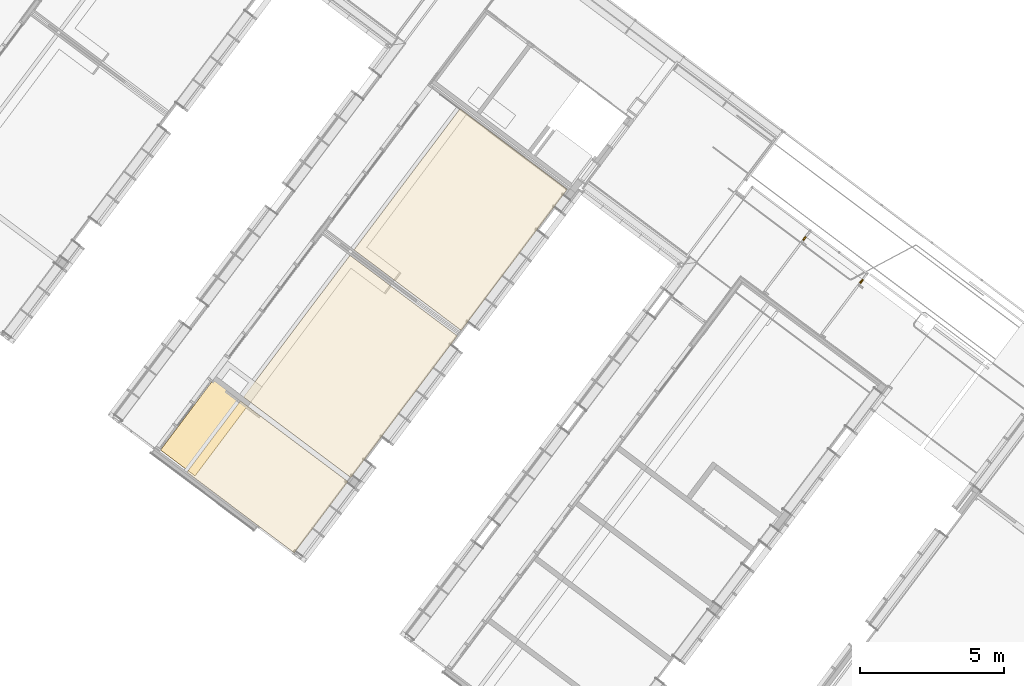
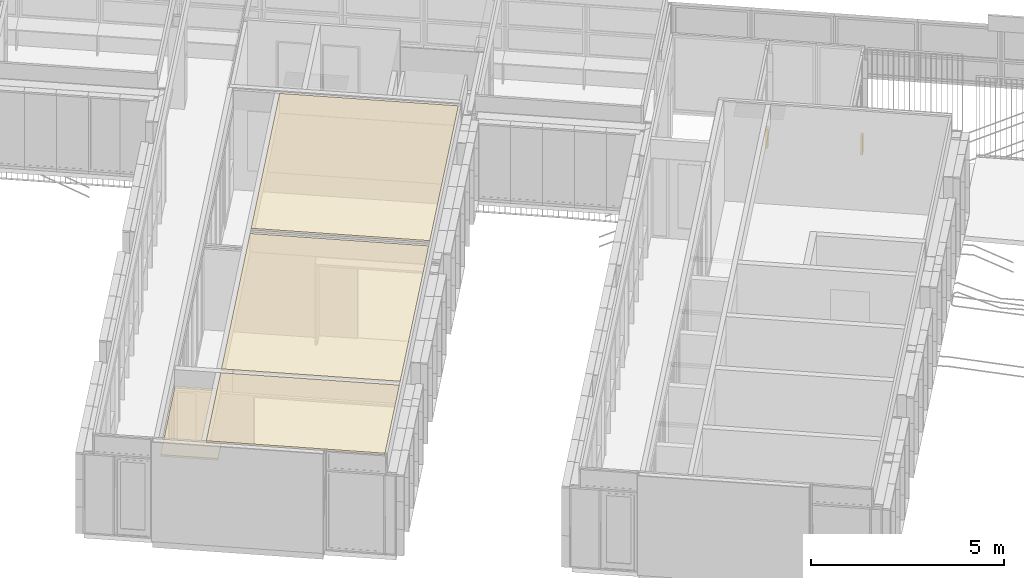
# One storey, part 216 of 243: 2 coverings, 2 doors, 2 elements without a shape of their own.
"""IFC2X3 building model written with IfcOpenShell, lengths in metres."""

from ifc_helpers import new_model, entity, si_unit, converted_unit, derived_unit, direction, frame, frame_2d, origin, origin_2d_with_axis, place, context, subcontext, project, spatial, polyline, rectangle, outline, extrude, source, transform, mapped, material, material_list, layer, layer_set, layer_usage, type_object, type_shapes, element, aggregate, save


model = new_model("IFC2X3")

# Units and contexts
model_context = context("Model", 3, precision=1e-05, world=origin(), true_north=direction((6.123031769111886e-17, 1.0)))
body_context = subcontext(model_context, "Body", "Model", "MODEL_VIEW")
ifc_project = project(units=[si_unit("LENGTHUNIT", "METRE"), si_unit("AREAUNIT", "SQUARE_METRE"), si_unit("VOLUMEUNIT", "CUBIC_METRE"), converted_unit("PLANEANGLEUNIT", "DEGREE", entity("IfcRatioMeasure", 0.017453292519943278), si_unit("PLANEANGLEUNIT", "RADIAN"), dimensions=[0, 0, 0, 0, 0, 0, 0]), si_unit("MASSUNIT", "GRAM", prefix="KILO"), derived_unit("MASSDENSITYUNIT", [(si_unit("MASSUNIT", "GRAM", prefix="KILO"), 1), (si_unit("LENGTHUNIT", "METRE"), -3)]), derived_unit("IONCONCENTRATIONUNIT", [(si_unit("MASSUNIT", "GRAM", prefix="KILO"), 1), (si_unit("LENGTHUNIT", "METRE"), -3)]), derived_unit("MOMENTOFINERTIAUNIT", [(si_unit("LENGTHUNIT", "METRE"), 4)]), si_unit("TIMEUNIT", "SECOND"), si_unit("FREQUENCYUNIT", "HERTZ"), si_unit("THERMODYNAMICTEMPERATUREUNIT", "DEGREE_CELSIUS"), derived_unit("THERMALTRANSMITTANCEUNIT", [(si_unit("MASSUNIT", "GRAM", prefix="KILO"), 1), (si_unit("THERMODYNAMICTEMPERATUREUNIT", "KELVIN"), -1), (si_unit("TIMEUNIT", "SECOND"), -3)]), derived_unit("THERMALCONDUCTANCEUNIT", [(si_unit("MASSUNIT", "GRAM", prefix="KILO"), 1), (si_unit("THERMODYNAMICTEMPERATUREUNIT", "KELVIN"), -1), (si_unit("TIMEUNIT", "SECOND"), -3), (si_unit("LENGTHUNIT", "METRE"), 1)]), derived_unit("VOLUMETRICFLOWRATEUNIT", [(si_unit("LENGTHUNIT", "METRE"), 3), (si_unit("TIMEUNIT", "SECOND"), -1)]), derived_unit("MASSFLOWRATEUNIT", [(si_unit("MASSUNIT", "GRAM", prefix="KILO"), 1), (si_unit("TIMEUNIT", "SECOND"), -1)]), derived_unit("ROTATIONALFREQUENCYUNIT", [(si_unit("TIMEUNIT", "SECOND"), -1)]), si_unit("ELECTRICCURRENTUNIT", "AMPERE"), si_unit("ELECTRICVOLTAGEUNIT", "VOLT"), si_unit("POWERUNIT", "WATT"), si_unit("FORCEUNIT", "NEWTON", prefix="KILO"), si_unit("ILLUMINANCEUNIT", "LUX"), si_unit("LUMINOUSFLUXUNIT", "LUMEN"), si_unit("LUMINOUSINTENSITYUNIT", "CANDELA"), derived_unit("USERDEFINED", [(si_unit("MASSUNIT", "GRAM", prefix="KILO"), -1), (si_unit("LENGTHUNIT", "METRE"), -2), (si_unit("TIMEUNIT", "SECOND"), 3), (si_unit("LUMINOUSFLUXUNIT", "LUMEN"), 1)]), derived_unit("USERDEFINED", [(si_unit("MASSUNIT", "GRAM", prefix="KILO"), 1), (si_unit("TIMEUNIT", "SECOND"), -3), (si_unit("LENGTHUNIT", "METRE"), 3), (si_unit("ELECTRICCURRENTUNIT", "AMPERE"), -2)]), derived_unit("SOUNDPOWERUNIT", [(si_unit("MASSUNIT", "GRAM", prefix="KILO"), 1), (si_unit("TIMEUNIT", "SECOND"), -3), (si_unit("LENGTHUNIT", "METRE"), 2)]), derived_unit("SOUNDPRESSUREUNIT", [(si_unit("MASSUNIT", "GRAM", prefix="KILO"), 1), (si_unit("LENGTHUNIT", "METRE"), -1), (si_unit("TIMEUNIT", "SECOND"), -2)]), derived_unit("LINEARVELOCITYUNIT", [(si_unit("LENGTHUNIT", "METRE"), 1), (si_unit("TIMEUNIT", "SECOND"), -1)]), si_unit("PRESSUREUNIT", "PASCAL"), derived_unit("USERDEFINED", [(si_unit("MASSUNIT", "GRAM", prefix="KILO"), 1), (si_unit("LENGTHUNIT", "METRE"), -2), (si_unit("TIMEUNIT", "SECOND"), -2)]), derived_unit("LINEARFORCEUNIT", [(si_unit("MASSUNIT", "GRAM", prefix="KILO"), 1), (si_unit("TIMEUNIT", "SECOND"), -2)]), derived_unit("PLANARFORCEUNIT", [(si_unit("MASSUNIT", "GRAM", prefix="KILO"), 1), (si_unit("LENGTHUNIT", "METRE"), -1), (si_unit("TIMEUNIT", "SECOND"), -2)]), derived_unit("SPECIFICHEATCAPACITYUNIT", [(si_unit("THERMODYNAMICTEMPERATUREUNIT", "KELVIN"), -1), (si_unit("LENGTHUNIT", "METRE"), 2), (si_unit("TIMEUNIT", "SECOND"), -2)]), derived_unit("HEATINGVALUEUNIT", [(si_unit("LENGTHUNIT", "METRE"), 2), (si_unit("TIMEUNIT", "SECOND"), -2)]), derived_unit("VAPORPERMEABILITYUNIT", [(si_unit("LENGTHUNIT", "METRE"), -1), (si_unit("TIMEUNIT", "SECOND"), 1)]), derived_unit("DYNAMICVISCOSITYUNIT", [(si_unit("MASSUNIT", "GRAM", prefix="KILO"), 1), (si_unit("TIMEUNIT", "SECOND"), -1), (si_unit("LENGTHUNIT", "METRE"), -1)]), derived_unit("THERMALEXPANSIONCOEFFICIENTUNIT", [(si_unit("THERMODYNAMICTEMPERATUREUNIT", "KELVIN"), -1)]), derived_unit("MODULUSOFELASTICITYUNIT", [(si_unit("MASSUNIT", "GRAM", prefix="KILO"), 1), (si_unit("LENGTHUNIT", "METRE"), -1), (si_unit("TIMEUNIT", "SECOND"), -2)]), derived_unit("ISOTHERMALMOISTURECAPACITYUNIT", [(si_unit("LENGTHUNIT", "METRE"), 3), (si_unit("MASSUNIT", "GRAM", prefix="KILO"), -1)]), derived_unit("MOISTUREDIFFUSIVITYUNIT", [(si_unit("TIMEUNIT", "SECOND"), -1), (si_unit("LENGTHUNIT", "METRE"), 2)])], contexts=[model_context])

# Site, building, storey
site_placement = place(None, frame((0.0, 0.0, 235.0), z_axis=(0.0, 0.0, 1.0), x_axis=(-0.7996477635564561, 0.6004693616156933, 0.0)))
site = spatial("IfcSite", under=ifc_project, at=site_placement, Name="Default", CompositionType="ELEMENT")
building_placement = place(site_placement, origin())
building = spatial("IfcBuilding", under=site, at=building_placement, CompositionType="ELEMENT")
storey_placement = place(building_placement, origin())
storey = spatial("IfcBuildingStorey", under=building, at=storey_placement, Name="P0- Escola", CompositionType="ELEMENT", Elevation=0.0)

# Curtain wall, door
curtain_wall_type = type_object("IfcCurtainWallType", PredefinedType="NOTDEFINED")
curtain_wall_1_placement = place(storey_placement, origin())
curtain_wall_1 = element("IfcCurtainWall", 1, at=curtain_wall_1_placement, inside=storey, type_object=curtain_wall_type)
ifc_material_1 = material(Name="_Alumini- T1- Perfil")
ifc_material_2 = material(Name="_Aillament")
ifc_material_list = material_list([ifc_material_1, ifc_material_2])
door_style = type_object("IfcDoorStyle", Name="MC- Alu- panell especific xapa:MC- Alu- panell especific xapa", ConstructionType="NOTDEFINED", OperationType="NOTDEFINED", ParameterTakesPrecedence=False, Sizeable=False, material=ifc_material_list)
shared_shape = source(origin(), body_context, "Body", "SweptSolid", [
    extrude(rectangle(XDim=0.005999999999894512, YDim=0.1500000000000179, at=frame_2d((0.0, -6.938893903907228e-18), x_axis=(1.0, 0.0))), frame((0.0, -0.057000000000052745, 0.0), z_axis=(0.0, 0.0, 1.0), x_axis=(0.0, -1.0, 0.0)), (0.0, 0.0, 1.0), 0.6000000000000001),
    extrude(rectangle(XDim=0.15000000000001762, YDim=0.048000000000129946, at=origin_2d_with_axis()), frame((0.0, -0.030000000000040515, 0.0)), (0.0, 0.0, 1.0), 0.6000000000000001),
    extrude(rectangle(XDim=0.005999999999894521, YDim=0.15000000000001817, at=frame_2d((0.0, -6.938893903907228e-18), x_axis=(1.0, 0.0))), frame((0.0, -0.003000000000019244, 0.0), z_axis=(0.0, 0.0, 1.0), x_axis=(0.0, -1.0, 0.0)), (0.0, 0.0, 1.0), 0.6000000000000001),
])
type_shapes(door_style, [shared_shape])
door_1_placement = place(curtain_wall_1_placement, frame((33.750147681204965, -39.765191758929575, 0.0), z_axis=(0.0, 0.0, 1.0), x_axis=(0.0, 1.0, 0.0)))
door_1 = element("IfcDoor", 2, at=door_1_placement, type_object=door_style, material=ifc_material_list, Name="MC- Alu- panell especific xapa:MC- Alu- panell especific xapa", ObjectType="MC- Alu- panell especific xapa:MC- Alu- panell especific xapa", OverallHeight=0.6000000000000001, OverallWidth=0.15000000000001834, context=body_context, shape_type="MappedRepresentation", body=[
    mapped(shared_shape, transform((0.0, 0.0, 0.0), scale=1.0)),
])
aggregate(curtain_wall_1, [door_1])

curtain_wall_2_placement = place(storey_placement, origin())
curtain_wall_2 = element("IfcCurtainWall", 3, at=curtain_wall_2_placement, inside=storey, type_object=curtain_wall_type)
door_2_placement = place(curtain_wall_2_placement, frame((31.271147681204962, -39.76519175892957, 0.0), z_axis=(0.0, 0.0, 1.0), x_axis=(0.0, 1.0, 0.0)))
door_2 = element("IfcDoor", 4, at=door_2_placement, type_object=door_style, material=ifc_material_list, Name="MC- Alu- panell especific xapa:MC- Alu- panell especific xapa", ObjectType="MC- Alu- panell especific xapa:MC- Alu- panell especific xapa", OverallHeight=0.6000000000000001, OverallWidth=0.15000000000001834, context=body_context, shape_type="MappedRepresentation", body=[
    mapped(shared_shape, transform((0.0, 0.0, 0.0), scale=1.0)),
])
aggregate(curtain_wall_2, [door_2])

# Coverings
ifc_layer_1 = layer(ifc_material_2, 0.05)
ifc_material_3 = material(Name="_PYL- SOS")
ifc_layer_2 = layer(ifc_material_3, 0.015)
ifc_layer_set_1 = layer_set([ifc_layer_1, ifc_layer_2], Name="Techo compuesto:SOS- Guix Laminat- Aillament- 6,5 cm")
ifc_layer_usage_1 = layer_usage(ifc_layer_set_1, "AXIS3", "POSITIVE", 0.0)
covering_type_1 = type_object("IfcCoveringType", Name="Techo compuesto:SOS- Guix Laminat- Aillament- 6,5 cm", PredefinedType="CEILING")
covering_1_placement = place(storey_placement, frame((41.410147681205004, -36.17519175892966, 3.0849999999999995)))
element("IfcCovering", 5, at=covering_1_placement, inside=storey, type_object=covering_type_1, material=ifc_layer_usage_1, Name="Techo compuesto:SOS- Guix Laminat- Aillament- 6,5 cm", ObjectType="Techo compuesto:SOS- Guix Laminat- Aillament- 6,5 cm", PredefinedType="CEILING", context=body_context, shape_type="SweptSolid", body=[
    extrude(rectangle(XDim=6.141001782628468, YDim=4.667999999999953, at=frame_2d((6.439293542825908e-15, 0.0), x_axis=(1.0, 0.0))), frame((2.333999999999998, 3.07050089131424, 0.0), z_axis=(0.0, 0.0, 1.0), x_axis=(0.0, 1.0, 0.0)), (0.0, 0.0, 1.0), 0.06499999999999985),
    extrude(rectangle(XDim=3.100248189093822, YDim=4.66799999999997, at=frame_2d((-2.1094237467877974e-15, 8.659739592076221e-15), x_axis=(1.0, 0.0))), frame((2.333999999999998, 14.271125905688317, 0.0), z_axis=(0.0, 0.0, 1.0), x_axis=(0.0, 1.0, 0.0)), (0.0, 0.0, 1.0), 0.06499999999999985),
    extrude(rectangle(XDim=6.1650000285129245, YDim=4.667999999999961, at=frame_2d((4.218847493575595e-15, 4.440892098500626e-15), x_axis=(1.0, 0.0))), frame((2.333999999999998, 9.46150179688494, 0.0), z_axis=(0.0, 0.0, 1.0), x_axis=(0.0, 1.0, 0.0)), (0.0, 0.0, 1.0), 0.06499999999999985),
])
ifc_material_4 = material(Name="_Fusta massisa- T1")
ifc_layer_3 = layer(ifc_material_4, 0.06)
ifc_layer_set_2 = layer_set([ifc_layer_3], Name="Techo compuesto:SOS- Fusta- Revestiment- 6 cm")
ifc_layer_usage_2 = layer_usage(ifc_layer_set_2, "AXIS3", "POSITIVE", 0.0)
covering_type_2 = type_object("IfcCoveringType", Name="Techo compuesto:SOS- Fusta- Revestiment- 6 cm", PredefinedType="CEILING")
covering_2_placement = place(storey_placement, frame((45.780147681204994, -23.550189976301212, 2.5050000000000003)))
element("IfcCovering", 6, at=covering_2_placement, inside=storey, type_object=covering_type_2, material=ifc_layer_usage_2, Name="Techo compuesto:SOS- Fusta- Revestiment- 6 cm", ObjectType="Techo compuesto:SOS- Fusta- Revestiment- 6 cm", PredefinedType="CEILING", context=body_context, shape_type="SweptSolid", body=[
    extrude(outline(polyline([(-0.5993333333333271, 0.979333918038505), (-0.5993333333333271, -2.0546678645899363), (0.9006666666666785, -2.0546678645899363), (0.9006666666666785, 1.0753339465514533), (-0.3013333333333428, 1.0753339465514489), (-0.3013333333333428, 0.979333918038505), (-0.5993333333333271, 0.979333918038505)])), frame((0.5993333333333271, 1.0753339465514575, 0.0), z_axis=(0.0, 0.0, -1.0), x_axis=(1.0, 0.0, 0.0)), (0.0, 0.0, -1.0), 0.059999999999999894),
])

save(model, "model.ifc")
